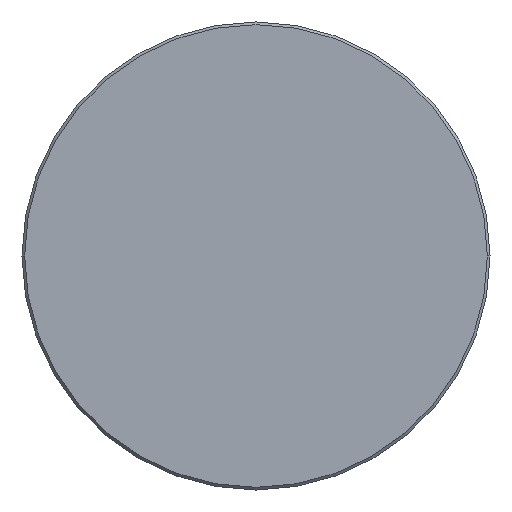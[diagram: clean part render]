
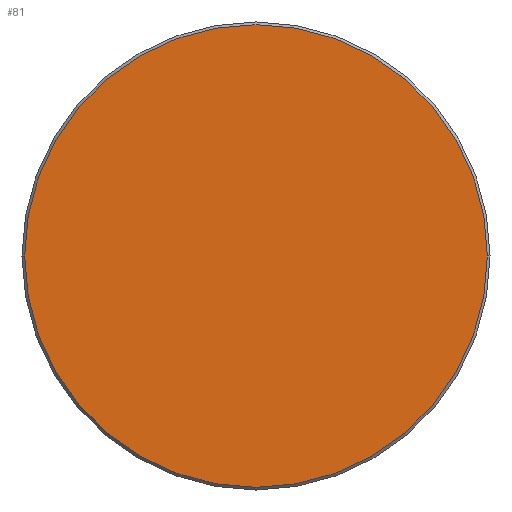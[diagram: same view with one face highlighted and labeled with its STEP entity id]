
A CAD part, left-side view. The second image highlights one B-rep face of the part: STEP entity #81.
In plain terms, the highlighted planar face has unit normal (-1, 0, 0).
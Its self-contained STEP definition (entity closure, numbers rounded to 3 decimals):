
#52 = EDGE_CURVE ( 'NONE', #938, #951, #797, .T. ) ;
#81 = ADVANCED_FACE ( 'NONE', ( #296 ), #294, .T. ) ;
#164 = EDGE_CURVE ( 'NONE', #951, #938, #848, .T. ) ;
#291 = DIRECTION ( 'NONE',  ( 0., -1., 0. ) ) ;
#292 = DIRECTION ( 'NONE',  ( -1., 0., 0. ) ) ;
#294 = PLANE ( 'NONE',  #723 ) ;
#296 = FACE_OUTER_BOUND ( 'NONE', #961, .T. ) ;
#311 = CARTESIAN_POINT ( 'NONE',  ( -107., 0., 0. ) ) ;
#484 = ORIENTED_EDGE ( 'NONE', *, *, #164, .T. ) ;
#514 = ORIENTED_EDGE ( 'NONE', *, *, #52, .T. ) ;
#537 = DIRECTION ( 'NONE',  ( 0., -1., 0. ) ) ;
#538 = DIRECTION ( 'NONE',  ( -1., 0., 0. ) ) ;
#539 = CARTESIAN_POINT ( 'NONE',  ( -107., 0., 0. ) ) ;
#723 = AXIS2_PLACEMENT_3D ( 'NONE', #311, #292, #291 ) ;
#797 = CIRCLE ( 'NONE', #806, 17.3 ) ;
#806 = AXIS2_PLACEMENT_3D ( 'NONE', #539, #538, #537 ) ;
#848 = CIRCLE ( 'NONE', #852, 17.3 ) ;
#852 = AXIS2_PLACEMENT_3D ( 'NONE', #1268, #1267, #1266 ) ;
#938 = VERTEX_POINT ( 'NONE', #1125 ) ;
#951 = VERTEX_POINT ( 'NONE', #1109 ) ;
#961 = EDGE_LOOP ( 'NONE', ( #484, #514 ) ) ;
#1109 = CARTESIAN_POINT ( 'NONE',  ( -107., 17.3, 0. ) ) ;
#1125 = CARTESIAN_POINT ( 'NONE',  ( -107., -17.3, 0. ) ) ;
#1266 = DIRECTION ( 'NONE',  ( 0., -1., 0. ) ) ;
#1267 = DIRECTION ( 'NONE',  ( -1., 0., 0. ) ) ;
#1268 = CARTESIAN_POINT ( 'NONE',  ( -107., 0., 0. ) ) ;
